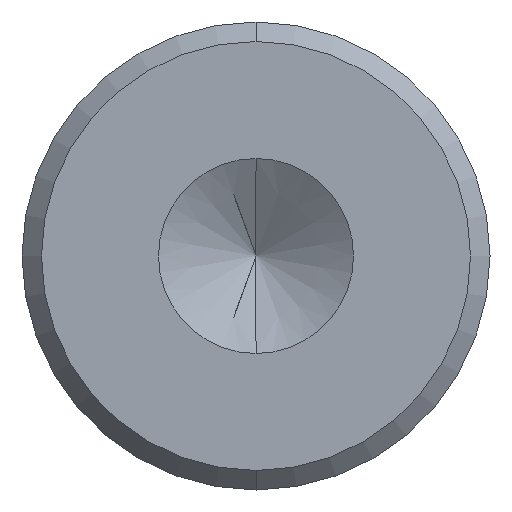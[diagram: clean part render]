
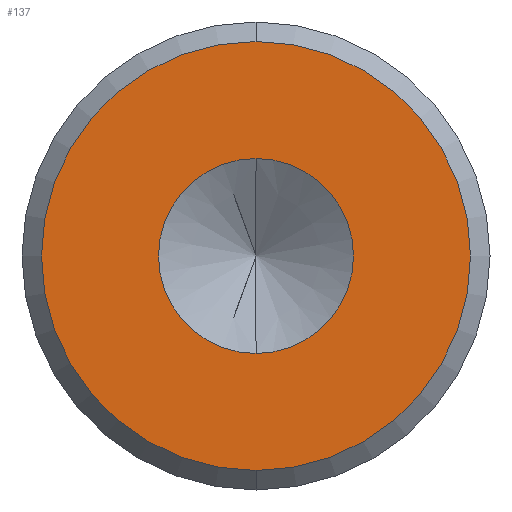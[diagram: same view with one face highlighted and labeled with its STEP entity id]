
A CAD part, front view. The second image highlights one B-rep face of the part: STEP entity #137.
In plain terms, the highlighted planar face has unit normal (0, -1, 0).
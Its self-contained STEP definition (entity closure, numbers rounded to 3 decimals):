
#11 = AXIS2_PLACEMENT_3D ( 'NONE', #501, #300, #88 ) ;
#13 = DIRECTION ( 'NONE',  ( 0., 0., 1. ) ) ;
#39 = ORIENTED_EDGE ( 'NONE', *, *, #348, .T. ) ;
#46 = CARTESIAN_POINT ( 'NONE',  ( 0., 0., -5.5 ) ) ;
#54 = CARTESIAN_POINT ( 'NONE',  ( 0., 0., 0. ) ) ;
#61 = EDGE_LOOP ( 'NONE', ( #39, #445 ) ) ;
#88 = DIRECTION ( 'NONE',  ( 0., 0., -1. ) ) ;
#105 = FACE_BOUND ( 'NONE', #312, .T. ) ;
#123 = VERTEX_POINT ( 'NONE', #267 ) ;
#130 = DIRECTION ( 'NONE',  ( 0., -1., 0. ) ) ;
#137 = ADVANCED_FACE ( 'NONE', ( #270, #105 ), #142, .F. ) ;
#142 = PLANE ( 'NONE',  #532 ) ;
#155 = ORIENTED_EDGE ( 'NONE', *, *, #398, .F. ) ;
#157 = AXIS2_PLACEMENT_3D ( 'NONE', #461, #256, #13 ) ;
#158 = ORIENTED_EDGE ( 'NONE', *, *, #247, .F. ) ;
#172 = DIRECTION ( 'NONE',  ( 0., 0., -1. ) ) ;
#176 = DIRECTION ( 'NONE',  ( 0., 0., 1. ) ) ;
#178 = CARTESIAN_POINT ( 'NONE',  ( 0., 0., 0. ) ) ;
#215 = CIRCLE ( 'NONE', #11, 2.5 ) ;
#243 = CIRCLE ( 'NONE', #483, 2.5 ) ;
#247 = EDGE_CURVE ( 'NONE', #436, #453, #215, .T. ) ;
#250 = VERTEX_POINT ( 'NONE', #46 ) ;
#256 = DIRECTION ( 'NONE',  ( 0., -1., 0. ) ) ;
#258 = CARTESIAN_POINT ( 'NONE',  ( 0., 0., 2.5 ) ) ;
#266 = DIRECTION ( 'NONE',  ( 0., -1., 0. ) ) ;
#267 = CARTESIAN_POINT ( 'NONE',  ( 0., 0., 5.5 ) ) ;
#270 = FACE_OUTER_BOUND ( 'NONE', #61, .T. ) ;
#300 = DIRECTION ( 'NONE',  ( 0., -1., 0. ) ) ;
#312 = EDGE_LOOP ( 'NONE', ( #155, #158 ) ) ;
#319 = CIRCLE ( 'NONE', #157, 5.5 ) ;
#321 = CARTESIAN_POINT ( 'NONE',  ( 0., 0., 0. ) ) ;
#348 = EDGE_CURVE ( 'NONE', #123, #250, #319, .T. ) ;
#390 = CARTESIAN_POINT ( 'NONE',  ( 0., 0., -2.5 ) ) ;
#393 = DIRECTION ( 'NONE',  ( 0., 1., 0. ) ) ;
#398 = EDGE_CURVE ( 'NONE', #453, #436, #243, .T. ) ;
#434 = DIRECTION ( 'NONE',  ( 0., 0., 1. ) ) ;
#436 = VERTEX_POINT ( 'NONE', #258 ) ;
#445 = ORIENTED_EDGE ( 'NONE', *, *, #510, .T. ) ;
#453 = VERTEX_POINT ( 'NONE', #390 ) ;
#461 = CARTESIAN_POINT ( 'NONE',  ( 0., 0., 0. ) ) ;
#467 = AXIS2_PLACEMENT_3D ( 'NONE', #54, #266, #176 ) ;
#483 = AXIS2_PLACEMENT_3D ( 'NONE', #178, #130, #172 ) ;
#501 = CARTESIAN_POINT ( 'NONE',  ( 0., 0., 0. ) ) ;
#510 = EDGE_CURVE ( 'NONE', #250, #123, #517, .T. ) ;
#517 = CIRCLE ( 'NONE', #467, 5.5 ) ;
#532 = AXIS2_PLACEMENT_3D ( 'NONE', #321, #393, #434 ) ;
